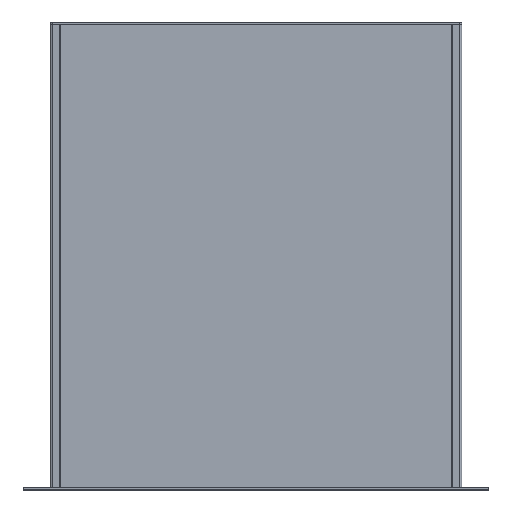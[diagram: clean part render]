
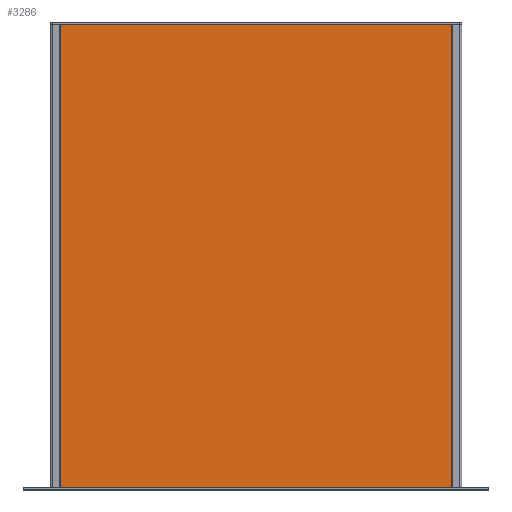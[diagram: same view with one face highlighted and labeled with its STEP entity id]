
A CAD part, top view. The second image highlights one B-rep face of the part: STEP entity #3286.
In plain terms, the highlighted planar face has unit normal (0, 0, 1).
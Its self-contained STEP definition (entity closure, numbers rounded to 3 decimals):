
#230=PLANE('',#3643);
#398=FACE_OUTER_BOUND('',#594,.T.);
#594=EDGE_LOOP('',(#3043,#3044,#3045,#3046));
#910=LINE('',#5476,#1254);
#917=LINE('',#5491,#1261);
#918=LINE('',#5493,#1262);
#919=LINE('',#5494,#1263);
#1254=VECTOR('',#4521,10.);
#1261=VECTOR('',#4534,10.);
#1262=VECTOR('',#4535,10.);
#1263=VECTOR('',#4536,10.);
#1698=VERTEX_POINT('',#5470);
#1700=VERTEX_POINT('',#5474);
#1705=VERTEX_POINT('',#5490);
#1706=VERTEX_POINT('',#5492);
#2150=EDGE_CURVE('',#1698,#1700,#910,.T.);
#2157=EDGE_CURVE('',#1705,#1698,#917,.T.);
#2158=EDGE_CURVE('',#1706,#1700,#918,.T.);
#2159=EDGE_CURVE('',#1705,#1706,#919,.T.);
#3043=ORIENTED_EDGE('',*,*,#2157,.T.);
#3044=ORIENTED_EDGE('',*,*,#2150,.T.);
#3045=ORIENTED_EDGE('',*,*,#2158,.F.);
#3046=ORIENTED_EDGE('',*,*,#2159,.F.);
#3286=ADVANCED_FACE('',(#398),#230,.T.);
#3643=AXIS2_PLACEMENT_3D('',#5489,#4532,#4533);
#4521=DIRECTION('',(0.,1.,0.));
#4532=DIRECTION('center_axis',(0.,0.,1.));
#4533=DIRECTION('ref_axis',(1.,0.,0.));
#4534=DIRECTION('',(1.,0.,0.));
#4535=DIRECTION('',(1.,0.,0.));
#4536=DIRECTION('',(0.,1.,0.));
#5470=CARTESIAN_POINT('',(444.6,0.,-19.3));
#5474=CARTESIAN_POINT('',(444.6,480.,-19.3));
#5476=CARTESIAN_POINT('',(444.6,0.,-19.3));
#5489=CARTESIAN_POINT('Origin',(38.4,0.,-19.3));
#5490=CARTESIAN_POINT('',(38.4,0.,-19.3));
#5491=CARTESIAN_POINT('',(38.4,0.,-19.3));
#5492=CARTESIAN_POINT('',(38.4,480.,-19.3));
#5493=CARTESIAN_POINT('',(38.4,480.,-19.3));
#5494=CARTESIAN_POINT('',(38.4,0.,-19.3));
